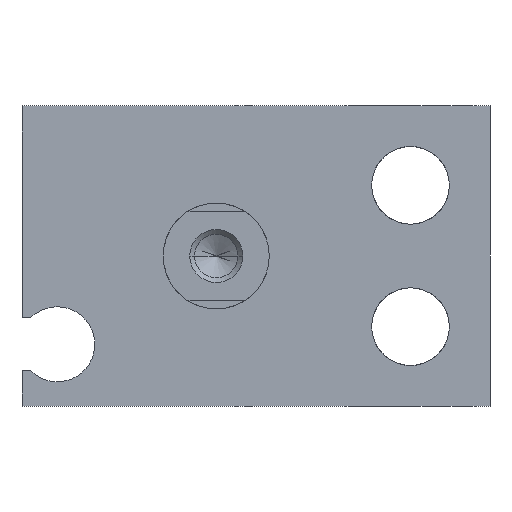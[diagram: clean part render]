
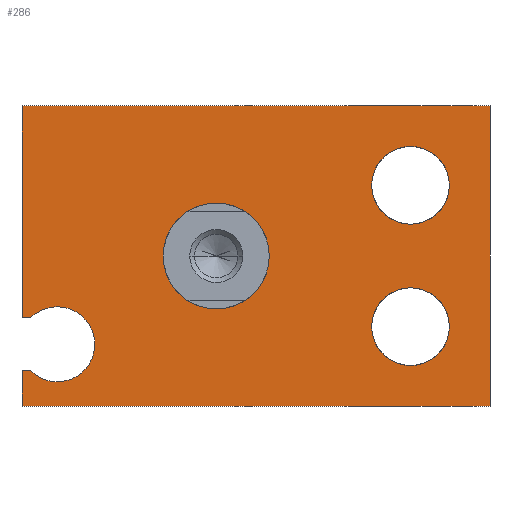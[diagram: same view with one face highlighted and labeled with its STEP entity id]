
A CAD part, left-side view. The second image highlights one B-rep face of the part: STEP entity #286.
In plain terms, the highlighted planar face has unit normal (-1, 0, 0).
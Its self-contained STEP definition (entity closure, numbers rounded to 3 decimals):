
#43 = LINE ( 'NONE', #1294, #703 ) ;
#74 = DIRECTION ( 'NONE',  ( 0., 0., 1. ) ) ;
#102 = VERTEX_POINT ( 'NONE', #1522 ) ;
#111 = CARTESIAN_POINT ( 'NONE',  ( 0., 9., -2.875 ) ) ;
#116 = EDGE_CURVE ( 'NONE', #2231, #2934, #1046, .T. ) ;
#184 = LINE ( 'NONE', #1125, #897 ) ;
#200 = VERTEX_POINT ( 'NONE', #3030 ) ;
#241 = LINE ( 'NONE', #2650, #3049 ) ;
#260 = DIRECTION ( 'NONE',  ( -1., 0., 0. ) ) ;
#286 = ADVANCED_FACE ( 'NONE', ( #580, #610, #2756, #384 ), #595, .T. ) ;
#303 = DIRECTION ( 'NONE',  ( 0., 0., 1. ) ) ;
#373 = DIRECTION ( 'NONE',  ( -1., 0., 0. ) ) ;
#379 = CARTESIAN_POINT ( 'NONE',  ( 0., 11., 8.5 ) ) ;
#384 = FACE_BOUND ( 'NONE', #2598, .T. ) ;
#389 = CARTESIAN_POINT ( 'NONE',  ( 0., 9., -5. ) ) ;
#472 = DIRECTION ( 'NONE',  ( -1., 0., 0. ) ) ;
#499 = AXIS2_PLACEMENT_3D ( 'NONE', #2734, #2664, #573 ) ;
#500 = CIRCLE ( 'NONE', #1152, 2.125 ) ;
#506 = CARTESIAN_POINT ( 'NONE',  ( 0., 0., 3. ) ) ;
#542 = CARTESIAN_POINT ( 'NONE',  ( 0., -15.5, 8.5 ) ) ;
#573 = DIRECTION ( 'NONE',  ( 0., 0., -1. ) ) ;
#576 = CARTESIAN_POINT ( 'NONE',  ( 0., 11., -3.5 ) ) ;
#580 = FACE_OUTER_BOUND ( 'NONE', #2794, .T. ) ;
#595 = PLANE ( 'NONE',  #801 ) ;
#598 = EDGE_CURVE ( 'NONE', #910, #1668, #2254, .T. ) ;
#610 = FACE_BOUND ( 'NONE', #733, .T. ) ;
#634 = CARTESIAN_POINT ( 'NONE',  ( 0., -11., -4. ) ) ;
#650 = DIRECTION ( 'NONE',  ( 0., 0., 1. ) ) ;
#659 = LINE ( 'NONE', #2112, #691 ) ;
#669 = ORIENTED_EDGE ( 'NONE', *, *, #2286, .T. ) ;
#691 = VECTOR ( 'NONE', #1876, 1000. ) ;
#701 = AXIS2_PLACEMENT_3D ( 'NONE', #2218, #2466, #303 ) ;
#703 = VECTOR ( 'NONE', #773, 1000. ) ;
#704 = ORIENTED_EDGE ( 'NONE', *, *, #2790, .T. ) ;
#715 = DIRECTION ( 'NONE',  ( 1., 0., 0. ) ) ;
#733 = EDGE_LOOP ( 'NONE', ( #1636, #1530 ) ) ;
#738 = DIRECTION ( 'NONE',  ( -1., 0., 0. ) ) ;
#773 = DIRECTION ( 'NONE',  ( 0., 0., 1. ) ) ;
#780 = VERTEX_POINT ( 'NONE', #2233 ) ;
#801 = AXIS2_PLACEMENT_3D ( 'NONE', #1556, #2310, #1599 ) ;
#819 = LINE ( 'NONE', #542, #2610 ) ;
#830 = EDGE_CURVE ( 'NONE', #3005, #1655, #184, .T. ) ;
#859 = CIRCLE ( 'NONE', #499, 3. ) ;
#878 = EDGE_CURVE ( 'NONE', #780, #3005, #1888, .T. ) ;
#897 = VECTOR ( 'NONE', #2091, 1000. ) ;
#910 = VERTEX_POINT ( 'NONE', #1237 ) ;
#932 = CARTESIAN_POINT ( 'NONE',  ( 0., 11., -6.5 ) ) ;
#1000 = VECTOR ( 'NONE', #1666, 1000. ) ;
#1008 = AXIS2_PLACEMENT_3D ( 'NONE', #1956, #738, #74 ) ;
#1046 = CIRCLE ( 'NONE', #2859, 2.2 ) ;
#1077 = EDGE_CURVE ( 'NONE', #1233, #780, #1301, .T. ) ;
#1125 = CARTESIAN_POINT ( 'NONE',  ( 0., 11., -8.5 ) ) ;
#1151 = ORIENTED_EDGE ( 'NONE', *, *, #1703, .F. ) ;
#1152 = AXIS2_PLACEMENT_3D ( 'NONE', #389, #373, #1351 ) ;
#1184 = CARTESIAN_POINT ( 'NONE',  ( 0., 0., 0. ) ) ;
#1185 = VERTEX_POINT ( 'NONE', #1565 ) ;
#1228 = ORIENTED_EDGE ( 'NONE', *, *, #2184, .F. ) ;
#1233 = VERTEX_POINT ( 'NONE', #1912 ) ;
#1234 = CARTESIAN_POINT ( 'NONE',  ( 0., 10.505, -3.5 ) ) ;
#1236 = EDGE_LOOP ( 'NONE', ( #1228, #1894 ) ) ;
#1237 = CARTESIAN_POINT ( 'NONE',  ( 0., 9., -7.125 ) ) ;
#1242 = EDGE_CURVE ( 'NONE', #1233, #910, #1647, .T. ) ;
#1259 = CIRCLE ( 'NONE', #701, 2.2 ) ;
#1294 = CARTESIAN_POINT ( 'NONE',  ( 0., -15.5, -8.5 ) ) ;
#1297 = ORIENTED_EDGE ( 'NONE', *, *, #1077, .T. ) ;
#1301 = LINE ( 'NONE', #1783, #1445 ) ;
#1320 = DIRECTION ( 'NONE',  ( 0., 1., 0. ) ) ;
#1351 = DIRECTION ( 'NONE',  ( 0., 0., 1. ) ) ;
#1363 = EDGE_CURVE ( 'NONE', #2384, #2379, #659, .T. ) ;
#1412 = ORIENTED_EDGE ( 'NONE', *, *, #830, .T. ) ;
#1424 = EDGE_CURVE ( 'NONE', #1185, #2544, #819, .T. ) ;
#1433 = ORIENTED_EDGE ( 'NONE', *, *, #1363, .T. ) ;
#1437 = CIRCLE ( 'NONE', #2858, 2.2 ) ;
#1445 = VECTOR ( 'NONE', #1320, 1000. ) ;
#1446 = AXIS2_PLACEMENT_3D ( 'NONE', #1184, #715, #1676 ) ;
#1484 = ORIENTED_EDGE ( 'NONE', *, *, #1242, .F. ) ;
#1499 = ORIENTED_EDGE ( 'NONE', *, *, #598, .F. ) ;
#1508 = CARTESIAN_POINT ( 'NONE',  ( 0., -11., -4. ) ) ;
#1522 = CARTESIAN_POINT ( 'NONE',  ( 0., -11., 1.8 ) ) ;
#1530 = ORIENTED_EDGE ( 'NONE', *, *, #2293, .T. ) ;
#1556 = CARTESIAN_POINT ( 'NONE',  ( 0., 9., -5. ) ) ;
#1565 = CARTESIAN_POINT ( 'NONE',  ( 0., -15.5, 8.5 ) ) ;
#1599 = DIRECTION ( 'NONE',  ( 0., 0., 1. ) ) ;
#1636 = ORIENTED_EDGE ( 'NONE', *, *, #2786, .T. ) ;
#1647 = CIRCLE ( 'NONE', #2961, 2.125 ) ;
#1655 = VERTEX_POINT ( 'NONE', #2283 ) ;
#1661 = DIRECTION ( 'NONE',  ( 0., 0., -1. ) ) ;
#1666 = DIRECTION ( 'NONE',  ( 0., 0., -1. ) ) ;
#1668 = VERTEX_POINT ( 'NONE', #111 ) ;
#1673 = CARTESIAN_POINT ( 'NONE',  ( 0., 9., -5. ) ) ;
#1676 = DIRECTION ( 'NONE',  ( 0., 0., -1. ) ) ;
#1703 = EDGE_CURVE ( 'NONE', #1668, #2379, #500, .T. ) ;
#1760 = AXIS2_PLACEMENT_3D ( 'NONE', #1858, #3070, #2821 ) ;
#1783 = CARTESIAN_POINT ( 'NONE',  ( 0., 10.505, -6.5 ) ) ;
#1854 = CIRCLE ( 'NONE', #1008, 2.2 ) ;
#1858 = CARTESIAN_POINT ( 'NONE',  ( 0., 9., -5. ) ) ;
#1876 = DIRECTION ( 'NONE',  ( 0., -1., 0. ) ) ;
#1888 = LINE ( 'NONE', #932, #1000 ) ;
#1894 = ORIENTED_EDGE ( 'NONE', *, *, #116, .F. ) ;
#1907 = CIRCLE ( 'NONE', #1446, 3. ) ;
#1912 = CARTESIAN_POINT ( 'NONE',  ( 0., 10.505, -6.5 ) ) ;
#1952 = ORIENTED_EDGE ( 'NONE', *, *, #2719, .F. ) ;
#1956 = CARTESIAN_POINT ( 'NONE',  ( 0., -11., 4. ) ) ;
#1962 = DIRECTION ( 'NONE',  ( 0., 1., 0. ) ) ;
#2091 = DIRECTION ( 'NONE',  ( 0., -1., 0. ) ) ;
#2112 = CARTESIAN_POINT ( 'NONE',  ( 0., 11., -3.5 ) ) ;
#2184 = EDGE_CURVE ( 'NONE', #2934, #2231, #1437, .T. ) ;
#2186 = VERTEX_POINT ( 'NONE', #2575 ) ;
#2218 = CARTESIAN_POINT ( 'NONE',  ( 0., -11., 4. ) ) ;
#2231 = VERTEX_POINT ( 'NONE', #2860 ) ;
#2233 = CARTESIAN_POINT ( 'NONE',  ( 0., 11., -6.5 ) ) ;
#2254 = CIRCLE ( 'NONE', #1760, 2.125 ) ;
#2283 = CARTESIAN_POINT ( 'NONE',  ( 0., -15.5, -8.5 ) ) ;
#2286 = EDGE_CURVE ( 'NONE', #2544, #2384, #241, .T. ) ;
#2293 = EDGE_CURVE ( 'NONE', #2617, #2186, #1907, .T. ) ;
#2310 = DIRECTION ( 'NONE',  ( -1., 0., 0. ) ) ;
#2338 = ORIENTED_EDGE ( 'NONE', *, *, #878, .T. ) ;
#2379 = VERTEX_POINT ( 'NONE', #1234 ) ;
#2384 = VERTEX_POINT ( 'NONE', #576 ) ;
#2403 = CARTESIAN_POINT ( 'NONE',  ( 0., 11., -8.5 ) ) ;
#2466 = DIRECTION ( 'NONE',  ( -1., 0., 0. ) ) ;
#2498 = DIRECTION ( 'NONE',  ( 0., 0., 1. ) ) ;
#2544 = VERTEX_POINT ( 'NONE', #379 ) ;
#2575 = CARTESIAN_POINT ( 'NONE',  ( 0., 0., -3. ) ) ;
#2598 = EDGE_LOOP ( 'NONE', ( #2881, #1952 ) ) ;
#2610 = VECTOR ( 'NONE', #1962, 1000. ) ;
#2617 = VERTEX_POINT ( 'NONE', #506 ) ;
#2619 = EDGE_CURVE ( 'NONE', #200, #102, #1259, .T. ) ;
#2650 = CARTESIAN_POINT ( 'NONE',  ( 0., 11., 8.5 ) ) ;
#2662 = ORIENTED_EDGE ( 'NONE', *, *, #1424, .T. ) ;
#2664 = DIRECTION ( 'NONE',  ( 1., 0., 0. ) ) ;
#2719 = EDGE_CURVE ( 'NONE', #102, #200, #1854, .T. ) ;
#2734 = CARTESIAN_POINT ( 'NONE',  ( 0., 0., 0. ) ) ;
#2756 = FACE_BOUND ( 'NONE', #1236, .T. ) ;
#2786 = EDGE_CURVE ( 'NONE', #2186, #2617, #859, .T. ) ;
#2790 = EDGE_CURVE ( 'NONE', #1655, #1185, #43, .T. ) ;
#2794 = EDGE_LOOP ( 'NONE', ( #1412, #704, #2662, #669, #1433, #1151, #1499, #1484, #1297, #2338 ) ) ;
#2821 = DIRECTION ( 'NONE',  ( 0., 0., 1. ) ) ;
#2858 = AXIS2_PLACEMENT_3D ( 'NONE', #634, #3020, #650 ) ;
#2859 = AXIS2_PLACEMENT_3D ( 'NONE', #1508, #260, #2910 ) ;
#2860 = CARTESIAN_POINT ( 'NONE',  ( 0., -11., -6.2 ) ) ;
#2881 = ORIENTED_EDGE ( 'NONE', *, *, #2619, .F. ) ;
#2910 = DIRECTION ( 'NONE',  ( 0., 0., 1. ) ) ;
#2934 = VERTEX_POINT ( 'NONE', #3110 ) ;
#2961 = AXIS2_PLACEMENT_3D ( 'NONE', #1673, #472, #2498 ) ;
#3005 = VERTEX_POINT ( 'NONE', #2403 ) ;
#3020 = DIRECTION ( 'NONE',  ( -1., 0., 0. ) ) ;
#3030 = CARTESIAN_POINT ( 'NONE',  ( 0., -11., 6.2 ) ) ;
#3049 = VECTOR ( 'NONE', #1661, 1000. ) ;
#3070 = DIRECTION ( 'NONE',  ( -1., 0., 0. ) ) ;
#3110 = CARTESIAN_POINT ( 'NONE',  ( 0., -11., -1.8 ) ) ;
